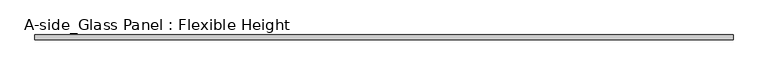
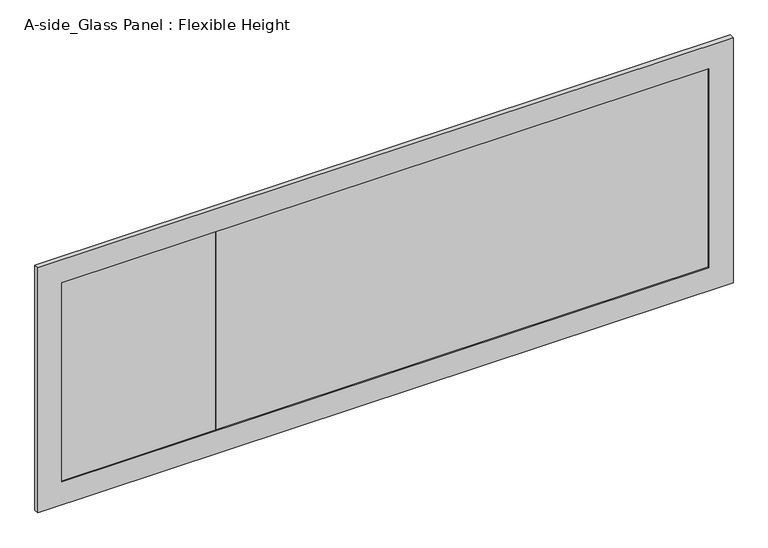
"""IFC4 building model written with IfcOpenShell, lengths in millimetres: proxy geometry, A-side_Glass Panel : Flexible Height."""

from ifc_helpers import new_model, si_unit, frame, origin, place, context, project, spatial, polyline, outline, extrude, source, transform, mapped, element, save


def a_side_glass_panel_flexible_height_007f3cf9(model_context):
    return source(origin(), model_context, "Body", "SweptSolid", [
        extrude(outline(polyline([(1390.0, 13.0), (370.0, 13.0), (370.0, 17.0), (1390.0, 17.0), (1390.0, 13.0)])), frame((0.0, 0.0, 50.0), z_axis=(0.0, 0.0, 1.0), x_axis=(1.0, 0.0, 0.0)), (0.0, 0.0, 1.0), 436.0),
        extrude(outline(polyline([(370.0, 13.0), (50.0, 13.0), (50.0, 17.0), (370.0, 17.0), (370.0, 13.0)])), frame((0.0, 0.0, 50.0), z_axis=(0.0, 0.0, 1.0), x_axis=(1.0, 0.0, 0.0)), (0.0, 0.0, 1.0), 436.0),
        extrude(outline(polyline([(536.0, 0.0), (0.0, 0.0), (0.0, 1440.0), (536.0, 1440.0), (536.0, 0.0)]), holes=[polyline([(486.0, 50.0), (486.0, 1390.0), (50.0, 1390.0), (50.0, 50.0), (486.0, 50.0)])]), frame((0.0, 10.0, 0.0), z_axis=(0.0, 1.0, 0.0), x_axis=(0.0, 0.0, 1.0)), (0.0, 0.0, 1.0), 10.0),
    ])


if __name__ == "__main__":
    model = new_model("IFC4")
    model_context = context("Model", 3, world=origin())
    ifc_project = project(units=[si_unit("LENGTHUNIT", "METRE", prefix="MILLI")], contexts=[model_context])
    site = spatial("IfcSite", under=ifc_project)
    building = spatial("IfcBuilding", under=site)
    placement = place(None, origin())
    a_side_glass_panel_flexible_height_shape = a_side_glass_panel_flexible_height_007f3cf9(model_context)
    element("IfcBuildingElementProxy", 1, Name="A-side_Glass Panel : Flexible Height", ObjectType="A-side_Glass Panel : Flexible Height", at=placement, inside=building, context=model_context, shape_type="MappedRepresentation", body=[
        mapped(a_side_glass_panel_flexible_height_shape, transform((0.0, 0.0, 0.0), x_axis=(1.0, 0.0, 0.0), y_axis=(0.0, 1.0, 0.0), z_axis=(0.0, 0.0, 1.0))),
    ])
    save(model, "model.ifc")
